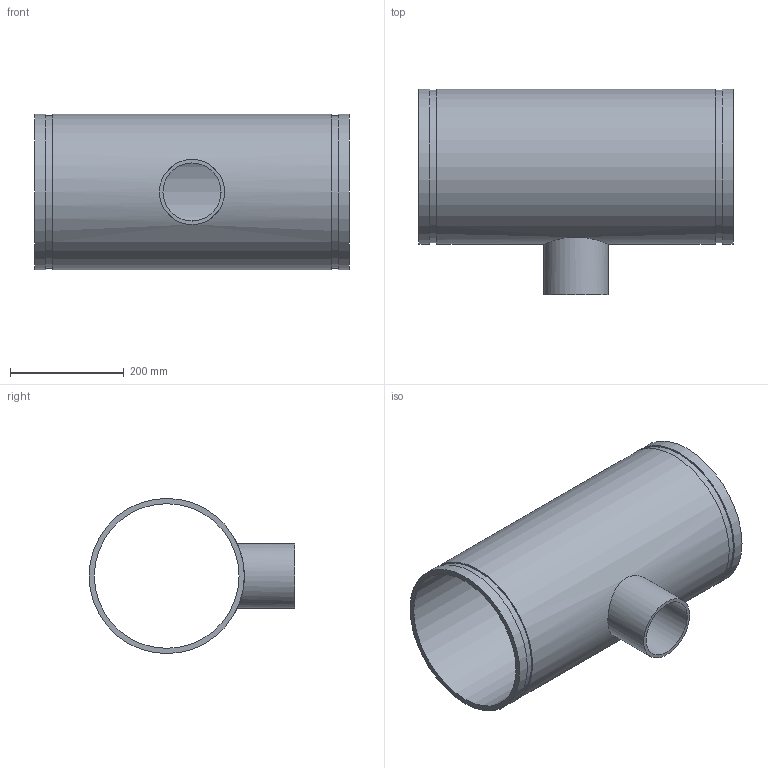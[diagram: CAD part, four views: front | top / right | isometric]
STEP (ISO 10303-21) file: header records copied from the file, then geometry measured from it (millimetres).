
FILE_DESCRIPTION(/* description */ ('VIC REDUCING TEE No 29T FFT (OGSxMPT)','CAx-IF Rec.Pracs.---Representation and Presentation of Product Manufacturing Information (PMI)---4.0---2014-10-13'),/* implementation_level */ '2;1');
FILE_NAME(/* name */ 'C:\Users\kkamble\AppData\Roaming\Autodesk\ApplicationPlugins\Back Up\Victaulic_IPS_Tee Reducing_No 29T FFT (OGSxMPT)\Victaulic_IPS_Tee Reducing_No 29T FFT (OGSxMPT)_10.0x04.0 (250x100).stp',/* time_stamp */ '2020-09-16T22:39:00+05:00',/* author */ ('CORINNE GRAY'),/* organization */ ('Victaulic'),/* preprocessor_version */ 'ST-DEVELOPER v17.2',/* originating_system */ 'Autodesk Inventor 2019',/* authorisation */ '');
FILE_SCHEMA (('AP242_MANAGED_MODEL_BASED_3D_ENGINEERING_MIM_LF { 1 0 10303 442 1 1 4 }'));
Length unit declared in the file: inch
Products named in the file (1): 29 FFT-10.0x04.0
Bounding box: 552.7 x 362.08 x 273.05 mm (x, y, z)
Volume: 4310768.6 mm3; surface area: 989773.5 mm2
Topology: 1 solids, 1 shells, 15 faces, 32 edges, 24 vertices
Faces by surface type: cylinder 8, plane 7
Full cylindrical faces by diameter (mm): 102.26 x1, 114.3 x1, 254.508 x1, 268.275 x2, 273.05 x3
Entity records: 709 total; most frequent: CARTESIAN_POINT 221, DIRECTION 106, ORIENTED_EDGE 64, AXIS2_PLACEMENT_3D 49, EDGE_CURVE 32, EDGE_LOOP 24, VERTEX_POINT 24, CIRCLE 20
